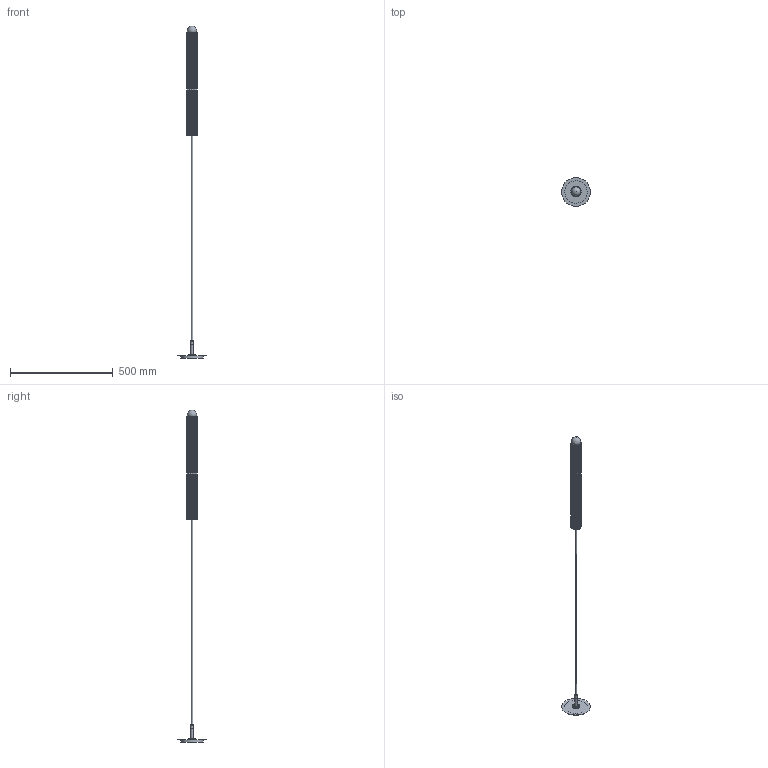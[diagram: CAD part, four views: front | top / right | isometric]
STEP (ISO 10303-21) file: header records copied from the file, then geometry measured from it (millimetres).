
FILE_DESCRIPTION(/* description */ (''),/* implementation_level */ '2;1');
FILE_NAME(/* name */ '250924_B_B761 Vesta Single LG.stp',/* time_stamp */ '2025-09-24T09:53:17+02:00',/* author */ ('Dominik'),/* organization */ (''),/* preprocessor_version */ 'ST-DEVELOPER v20.1',/* originating_system */ 'Autodesk Inventor 2026',/* authorisation */ '');
FILE_SCHEMA (('AUTOMOTIVE_DESIGN { 1 0 10303 214 3 1 1 }'));
Length unit declared in the file: millimetre
Products named in the file (1): B761 Vesta Single LG katalog
Bounding box: 140 x 140 x 1614.3 mm (x, y, z)
Volume: 1109505.3 mm3; surface area: 179995.8 mm2
Topology: 9 solids, 9 shells, 103 faces, 241 edges, 159 vertices
Faces by surface type: plane 49, cylinder 38, cone 8, torus 5, bspline 2, sphere 1
Full cylindrical faces by diameter (mm): 7 x1, 12 x1, 13 x2, 17 x1, 33 x1, 34.5 x1, 36 x1, 110 x1, 140 x1
Entity records: 3309 total; most frequent: CARTESIAN_POINT 647, DIRECTION 548, ORIENTED_EDGE 480, EDGE_CURVE 240, AXIS2_PLACEMENT_3D 209, VERTEX_POINT 159, LINE 130, VECTOR 130
